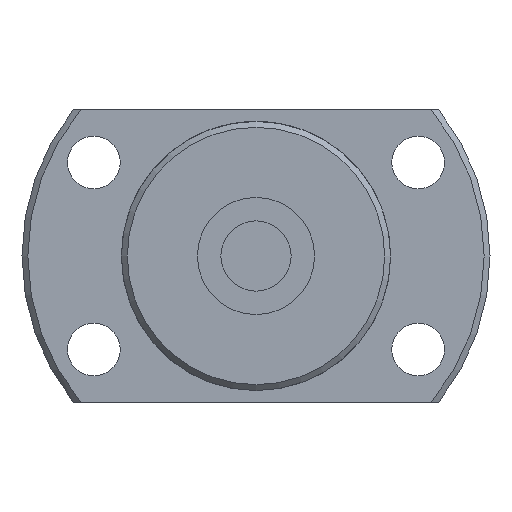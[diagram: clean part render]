
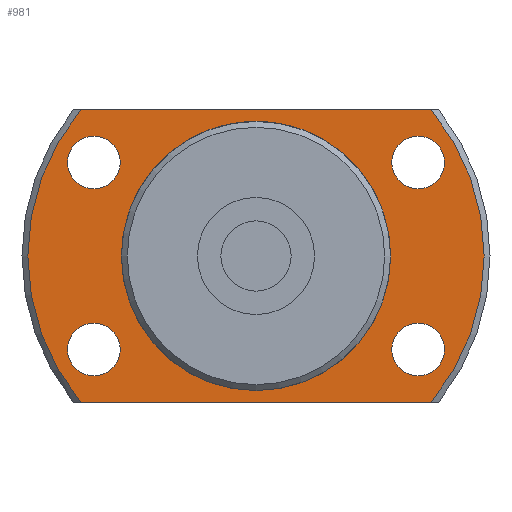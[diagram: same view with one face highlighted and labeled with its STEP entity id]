
A CAD part, left-side view. The second image highlights one B-rep face of the part: STEP entity #981.
In plain terms, the highlighted planar face has unit normal (-1, 0, 0).
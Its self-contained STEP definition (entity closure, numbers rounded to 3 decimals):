
#105=LINE('',#1717,#147);
#106=LINE('',#1721,#148);
#147=VECTOR('',#1371,1000.);
#148=VECTOR('',#1374,1000.);
#282=ORIENTED_EDGE('',*,*,#490,.T.);
#283=ORIENTED_EDGE('',*,*,#491,.T.);
#284=ORIENTED_EDGE('',*,*,#492,.T.);
#285=ORIENTED_EDGE('',*,*,#493,.T.);
#286=ORIENTED_EDGE('',*,*,#479,.F.);
#287=ORIENTED_EDGE('',*,*,#494,.F.);
#288=ORIENTED_EDGE('',*,*,#495,.F.);
#289=ORIENTED_EDGE('',*,*,#496,.F.);
#290=ORIENTED_EDGE('',*,*,#473,.T.);
#473=EDGE_CURVE('',#588,#588,#663,.T.);
#479=EDGE_CURVE('',#593,#594,#666,.T.);
#490=EDGE_CURVE('',#603,#603,#672,.T.);
#491=EDGE_CURVE('',#604,#604,#673,.T.);
#492=EDGE_CURVE('',#605,#605,#674,.T.);
#493=EDGE_CURVE('',#606,#606,#675,.T.);
#494=EDGE_CURVE('',#607,#593,#105,.T.);
#495=EDGE_CURVE('',#608,#607,#676,.T.);
#496=EDGE_CURVE('',#594,#608,#106,.T.);
#588=VERTEX_POINT('',#1660);
#593=VERTEX_POINT('',#1674);
#594=VERTEX_POINT('',#1676);
#603=VERTEX_POINT('',#1710);
#604=VERTEX_POINT('',#1712);
#605=VERTEX_POINT('',#1714);
#606=VERTEX_POINT('',#1716);
#607=VERTEX_POINT('',#1718);
#608=VERTEX_POINT('',#1720);
#663=CIRCLE('',#1106,11.25);
#666=CIRCLE('',#1110,19.5);
#672=CIRCLE('',#1121,2.25);
#673=CIRCLE('',#1122,2.25);
#674=CIRCLE('',#1123,2.25);
#675=CIRCLE('',#1124,2.25);
#676=CIRCLE('',#1125,19.5);
#750=EDGE_LOOP('',(#282));
#751=EDGE_LOOP('',(#283));
#752=EDGE_LOOP('',(#284));
#753=EDGE_LOOP('',(#285));
#754=EDGE_LOOP('',(#286,#287,#288,#289));
#755=EDGE_LOOP('',(#290));
#860=FACE_BOUND('',#750,.T.);
#861=FACE_BOUND('',#751,.T.);
#862=FACE_BOUND('',#752,.T.);
#863=FACE_BOUND('',#753,.T.);
#864=FACE_BOUND('',#754,.T.);
#865=FACE_BOUND('',#755,.T.);
#927=PLANE('',#1120);
#981=ADVANCED_FACE('',(#860,#861,#862,#863,#864,#865),#927,.F.);
#1106=AXIS2_PLACEMENT_3D('',#1659,#1329,#1330);
#1110=AXIS2_PLACEMENT_3D('',#1675,#1339,#1340);
#1120=AXIS2_PLACEMENT_3D('',#1708,#1361,#1362);
#1121=AXIS2_PLACEMENT_3D('',#1709,#1363,#1364);
#1122=AXIS2_PLACEMENT_3D('',#1711,#1365,#1366);
#1123=AXIS2_PLACEMENT_3D('',#1713,#1367,#1368);
#1124=AXIS2_PLACEMENT_3D('',#1715,#1369,#1370);
#1125=AXIS2_PLACEMENT_3D('',#1719,#1372,#1373);
#1329=DIRECTION('',(1.,0.,0.));
#1330=DIRECTION('',(0.,0.,-1.));
#1339=DIRECTION('',(1.,0.,0.));
#1340=DIRECTION('',(0.,0.,-1.));
#1361=DIRECTION('',(1.,0.,0.));
#1362=DIRECTION('',(0.,0.,-1.));
#1363=DIRECTION('',(1.,0.,0.));
#1364=DIRECTION('',(0.,0.,-1.));
#1365=DIRECTION('',(1.,0.,0.));
#1366=DIRECTION('',(0.,0.,-1.));
#1367=DIRECTION('',(1.,0.,0.));
#1368=DIRECTION('',(0.,0.,-1.));
#1369=DIRECTION('',(1.,0.,0.));
#1370=DIRECTION('',(0.,0.,-1.));
#1371=DIRECTION('',(0.,1.,0.));
#1372=DIRECTION('',(1.,0.,0.));
#1373=DIRECTION('',(0.,0.,-1.));
#1374=DIRECTION('',(0.,-1.,0.));
#1659=CARTESIAN_POINT('',(19.,0.,0.));
#1660=CARTESIAN_POINT('',(19.,0.,-11.25));
#1674=CARTESIAN_POINT('',(19.,14.967,-12.5));
#1675=CARTESIAN_POINT('',(19.,0.,0.));
#1676=CARTESIAN_POINT('',(19.,14.967,12.5));
#1708=CARTESIAN_POINT('',(19.,11.25,0.));
#1709=CARTESIAN_POINT('',(19.,-13.856,-8.));
#1710=CARTESIAN_POINT('',(19.,-13.856,-10.25));
#1711=CARTESIAN_POINT('',(19.,-13.856,8.));
#1712=CARTESIAN_POINT('',(19.,-13.856,5.75));
#1713=CARTESIAN_POINT('',(19.,13.856,-8.));
#1714=CARTESIAN_POINT('',(19.,13.856,-10.25));
#1715=CARTESIAN_POINT('',(19.,13.856,8.));
#1716=CARTESIAN_POINT('',(19.,13.856,5.75));
#1717=CARTESIAN_POINT('',(19.,-25.,-12.5));
#1718=CARTESIAN_POINT('',(19.,-14.967,-12.5));
#1719=CARTESIAN_POINT('',(19.,0.,0.));
#1720=CARTESIAN_POINT('',(19.,-14.967,12.5));
#1721=CARTESIAN_POINT('',(19.,25.,12.5));
